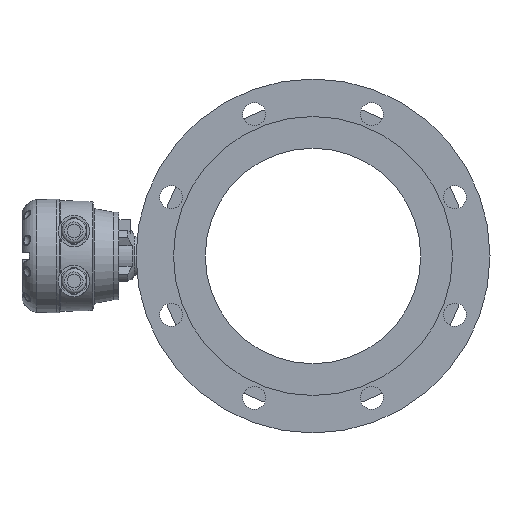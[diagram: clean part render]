
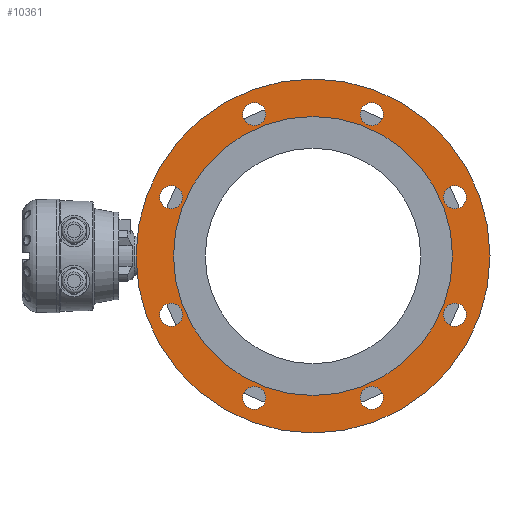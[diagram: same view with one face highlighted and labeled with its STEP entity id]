
A CAD part, left-side view. The second image highlights one B-rep face of the part: STEP entity #10361.
In plain terms, the highlighted planar face has unit normal (-1, 0, 0).
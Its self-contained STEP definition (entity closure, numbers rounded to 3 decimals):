
#141 = EDGE_CURVE ( 'NONE', #9963, #9963, #7528, .T. ) ;
#170 = EDGE_CURVE ( 'NONE', #9977, #9977, #7573, .T. ) ;
#204 = EDGE_CURVE ( 'NONE', #9991, #9991, #7624, .T. ) ;
#210 = EDGE_CURVE ( 'NONE', #9995, #9995, #7635, .T. ) ;
#239 = EDGE_CURVE ( 'NONE', #10009, #10009, #7678, .T. ) ;
#244 = EDGE_CURVE ( 'NONE', #10013, #10013, #7688, .T. ) ;
#1068 = AXIS2_PLACEMENT_3D ( 'NONE', #4480, #4282, #4319 ) ;
#1077 = AXIS2_PLACEMENT_3D ( 'NONE', #4502, #4542, #4649 ) ;
#1086 = AXIS2_PLACEMENT_3D ( 'NONE', #4705, #4731, #4235 ) ;
#1087 = AXIS2_PLACEMENT_3D ( 'NONE', #4339, #4781, #4198 ) ;
#1097 = AXIS2_PLACEMENT_3D ( 'NONE', #4385, #4422, #4429 ) ;
#1099 = AXIS2_PLACEMENT_3D ( 'NONE', #4318, #4258, #4286 ) ;
#1191 = AXIS2_PLACEMENT_3D ( 'NONE', #5930, #5931, #5932 ) ;
#1199 = AXIS2_PLACEMENT_3D ( 'NONE', #6211, #6226, #6227 ) ;
#1400 = AXIS2_PLACEMENT_3D ( 'NONE', #2978, #2983, #2984 ) ;
#1547 = AXIS2_PLACEMENT_3D ( 'NONE', #9663, #9689, #9690 ) ;
#1548 = AXIS2_PLACEMENT_3D ( 'NONE', #9727, #9736, #9737 ) ;
#2604 = ORIENTED_EDGE ( 'NONE', *, *, #141, .F. ) ;
#2605 = ORIENTED_EDGE ( 'NONE', *, *, #210, .F. ) ;
#2606 = ORIENTED_EDGE ( 'NONE', *, *, #170, .F. ) ;
#2607 = ORIENTED_EDGE ( 'NONE', *, *, #4354, .F. ) ;
#2608 = ORIENTED_EDGE ( 'NONE', *, *, #12198, .F. ) ;
#2609 = ORIENTED_EDGE ( 'NONE', *, *, #12218, .F. ) ;
#2610 = ORIENTED_EDGE ( 'NONE', *, *, #239, .F. ) ;
#2611 = ORIENTED_EDGE ( 'NONE', *, *, #244, .F. ) ;
#2612 = ORIENTED_EDGE ( 'NONE', *, *, #204, .F. ) ;
#2613 = ORIENTED_EDGE ( 'NONE', *, *, #4383, .T. ) ;
#2692 = EDGE_LOOP ( 'NONE', ( #2613 ) ) ;
#2973 = PLANE ( 'NONE',  #1400 ) ;
#2978 = CARTESIAN_POINT ( 'NONE',  ( -164.805, -180.017, -10.543 ) ) ;
#2983 = DIRECTION ( 'NONE',  ( -1., 0., 0. ) ) ;
#2984 = DIRECTION ( 'NONE',  ( 0., 0., -1. ) ) ;
#4198 = DIRECTION ( 'NONE',  ( 0., 0., 1. ) ) ;
#4235 = DIRECTION ( 'NONE',  ( 0., 0., -1. ) ) ;
#4258 = DIRECTION ( 'NONE',  ( -1., 0., 0. ) ) ;
#4282 = DIRECTION ( 'NONE',  ( -1., 0., 0. ) ) ;
#4286 = DIRECTION ( 'NONE',  ( 0., 0., 1. ) ) ;
#4318 = CARTESIAN_POINT ( 'NONE',  ( -164.805, -43.745, -66.989 ) ) ;
#4319 = DIRECTION ( 'NONE',  ( 0., 0., 1. ) ) ;
#4339 = CARTESIAN_POINT ( 'NONE',  ( -164.805, -123.571, 125.73 ) ) ;
#4354 = EDGE_CURVE ( 'NONE', #10105, #10105, #8001, .T. ) ;
#4383 = EDGE_CURVE ( 'NONE', #10113, #10113, #8028, .T. ) ;
#4385 = CARTESIAN_POINT ( 'NONE',  ( -164.805, -123.571, -146.815 ) ) ;
#4422 = DIRECTION ( 'NONE',  ( -1., 0., 0. ) ) ;
#4429 = DIRECTION ( 'NONE',  ( 0., 0., 1. ) ) ;
#4480 = CARTESIAN_POINT ( 'NONE',  ( -164.805, -43.745, 45.903 ) ) ;
#4502 = CARTESIAN_POINT ( 'NONE',  ( -164.805, -236.463, 125.73 ) ) ;
#4542 = DIRECTION ( 'NONE',  ( -1., 0., 0. ) ) ;
#4649 = DIRECTION ( 'NONE',  ( 0., 0., 1. ) ) ;
#4705 = CARTESIAN_POINT ( 'NONE',  ( -164.805, -180.017, -10.543 ) ) ;
#4731 = DIRECTION ( 'NONE',  ( 1., 0., 0. ) ) ;
#4781 = DIRECTION ( 'NONE',  ( -1., 0., 0. ) ) ;
#5930 = CARTESIAN_POINT ( 'NONE',  ( -164.805, -316.289, 45.903 ) ) ;
#5931 = DIRECTION ( 'NONE',  ( -1., 0., 0. ) ) ;
#5932 = DIRECTION ( 'NONE',  ( 0., 0., 1. ) ) ;
#6211 = CARTESIAN_POINT ( 'NONE',  ( -164.805, -180.017, -10.543 ) ) ;
#6226 = DIRECTION ( 'NONE',  ( 1., 0., 0. ) ) ;
#6227 = DIRECTION ( 'NONE',  ( 0., 0., -1. ) ) ;
#6876 = EDGE_LOOP ( 'NONE', ( #2611 ) ) ;
#6922 = EDGE_LOOP ( 'NONE', ( #2610 ) ) ;
#6927 = EDGE_LOOP ( 'NONE', ( #2609 ) ) ;
#6933 = EDGE_LOOP ( 'NONE', ( #2608 ) ) ;
#6934 = EDGE_LOOP ( 'NONE', ( #2605 ) ) ;
#6935 = EDGE_LOOP ( 'NONE', ( #2606 ) ) ;
#6936 = EDGE_LOOP ( 'NONE', ( #2607 ) ) ;
#6943 = EDGE_LOOP ( 'NONE', ( #2612 ) ) ;
#6961 = EDGE_LOOP ( 'NONE', ( #2604 ) ) ;
#7528 = CIRCLE ( 'NONE', #1068, 11. ) ;
#7573 = CIRCLE ( 'NONE', #1077, 11. ) ;
#7624 = CIRCLE ( 'NONE', #1086, 170. ) ;
#7635 = CIRCLE ( 'NONE', #1087, 11. ) ;
#7678 = CIRCLE ( 'NONE', #1097, 11. ) ;
#7688 = CIRCLE ( 'NONE', #1099, 11. ) ;
#8001 = CIRCLE ( 'NONE', #1191, 11. ) ;
#8028 = CIRCLE ( 'NONE', #1199, 134. ) ;
#8441 = FACE_BOUND ( 'NONE', #6927, .T. ) ;
#8442 = FACE_BOUND ( 'NONE', #6961, .T. ) ;
#8446 = FACE_BOUND ( 'NONE', #6933, .T. ) ;
#8447 = FACE_BOUND ( 'NONE', #2692, .T. ) ;
#8448 = FACE_BOUND ( 'NONE', #6934, .T. ) ;
#8449 = FACE_BOUND ( 'NONE', #6922, .T. ) ;
#8450 = FACE_BOUND ( 'NONE', #6935, .T. ) ;
#8451 = FACE_BOUND ( 'NONE', #6876, .T. ) ;
#8452 = FACE_BOUND ( 'NONE', #6936, .T. ) ;
#8453 = FACE_OUTER_BOUND ( 'NONE', #6943, .T. ) ;
#8844 = CIRCLE ( 'NONE', #1547, 11. ) ;
#8878 = CIRCLE ( 'NONE', #1548, 11. ) ;
#9663 = CARTESIAN_POINT ( 'NONE',  ( -164.805, -316.289, -66.989 ) ) ;
#9689 = DIRECTION ( 'NONE',  ( -1., 0., 0. ) ) ;
#9690 = DIRECTION ( 'NONE',  ( 0., 0., 1. ) ) ;
#9727 = CARTESIAN_POINT ( 'NONE',  ( -164.805, -236.463, -146.815 ) ) ;
#9736 = DIRECTION ( 'NONE',  ( -1., 0., 0. ) ) ;
#9737 = DIRECTION ( 'NONE',  ( 0., 0., 1. ) ) ;
#9963 = VERTEX_POINT ( 'NONE', #9964 ) ;
#9964 = CARTESIAN_POINT ( 'NONE',  ( -164.805, -43.745, 56.903 ) ) ;
#9977 = VERTEX_POINT ( 'NONE', #9978 ) ;
#9978 = CARTESIAN_POINT ( 'NONE',  ( -164.805, -236.463, 136.73 ) ) ;
#9991 = VERTEX_POINT ( 'NONE', #9992 ) ;
#9992 = CARTESIAN_POINT ( 'NONE',  ( -164.805, -180.017, -180.543 ) ) ;
#9995 = VERTEX_POINT ( 'NONE', #9996 ) ;
#9996 = CARTESIAN_POINT ( 'NONE',  ( -164.805, -123.571, 136.73 ) ) ;
#10009 = VERTEX_POINT ( 'NONE', #10010 ) ;
#10010 = CARTESIAN_POINT ( 'NONE',  ( -164.805, -123.571, -135.815 ) ) ;
#10013 = VERTEX_POINT ( 'NONE', #10014 ) ;
#10014 = CARTESIAN_POINT ( 'NONE',  ( -164.805, -43.745, -55.989 ) ) ;
#10105 = VERTEX_POINT ( 'NONE', #10106 ) ;
#10106 = CARTESIAN_POINT ( 'NONE',  ( -164.805, -316.289, 56.903 ) ) ;
#10113 = VERTEX_POINT ( 'NONE', #10114 ) ;
#10114 = CARTESIAN_POINT ( 'NONE',  ( -164.805, -180.017, -144.543 ) ) ;
#10159 = VERTEX_POINT ( 'NONE', #10160 ) ;
#10160 = CARTESIAN_POINT ( 'NONE',  ( -164.805, -316.289, -55.989 ) ) ;
#10169 = VERTEX_POINT ( 'NONE', #10170 ) ;
#10170 = CARTESIAN_POINT ( 'NONE',  ( -164.805, -236.463, -135.815 ) ) ;
#10361 = ADVANCED_FACE ( 'NONE', ( #8442, #8448, #8450, #8452, #8446, #8441, #8449, #8451, #8453, #8447 ), #2973, .T. ) ;
#12198 = EDGE_CURVE ( 'NONE', #10159, #10159, #8844, .T. ) ;
#12218 = EDGE_CURVE ( 'NONE', #10169, #10169, #8878, .T. ) ;
